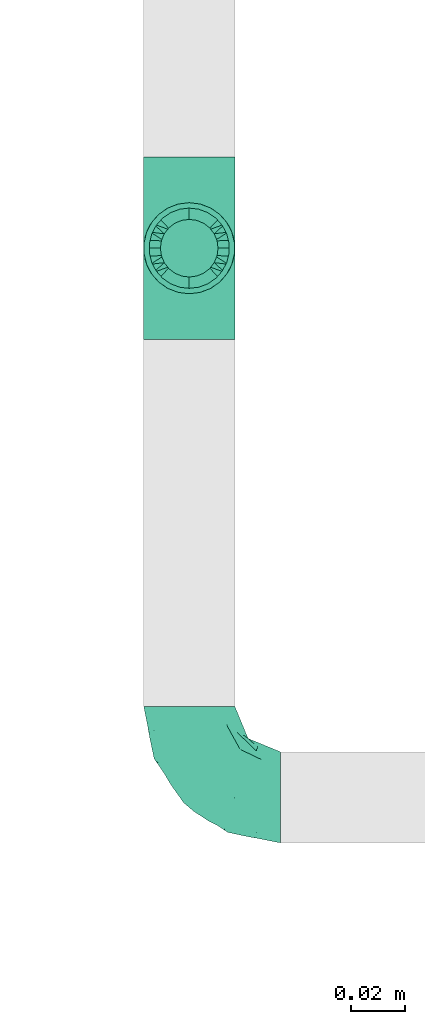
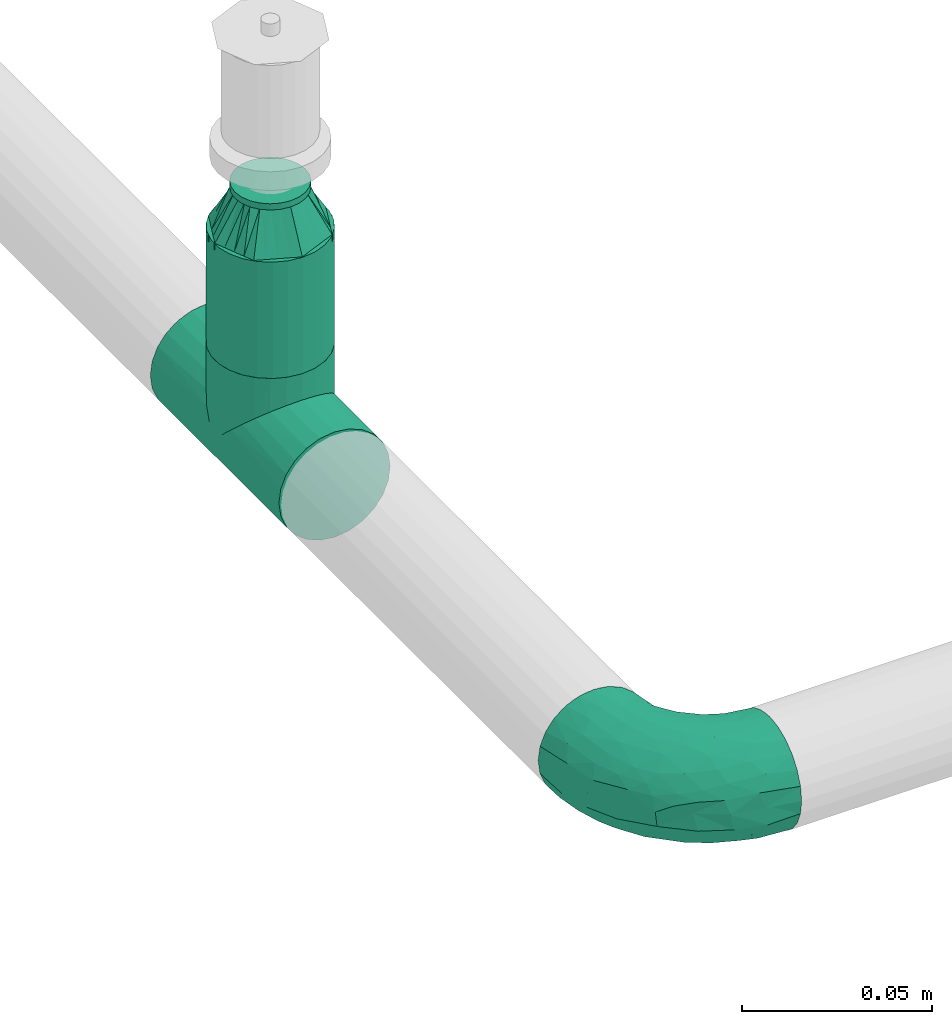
# One storey, part 6 of 31: 3 flow fittings, 1 flow segment.
"""IFC2X3 building model written with IfcOpenShell, lengths in millimetres."""

from ifc_helpers import new_model, entity, si_unit, converted_unit, derived_unit, direction, frame, origin_with_axes, origin_2d_with_axis, place, context, subcontext, project, spatial, hollow_circle, extrude, open_shell, surface_model, source, transform, mapped, type_object, element, save


model = new_model("IFC2X3")

# Units and contexts
model_context = context("Model", 3, precision=0.01, world=frame((0.0, 4.29681676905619e-09, 0.0)), true_north=direction((4.01073788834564e-13, 1.0)))
plan_context = context("Plan", 3, precision=0.01, world=frame((0.0, 4.29681676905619e-09, 0.0)), true_north=direction((4.01073788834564e-13, 1.0)))
body_context = subcontext(model_context, "Body", "Model", "MODEL_VIEW")
ifc_project = project(units=[converted_unit("PLANEANGLEUNIT", "DEGREE", entity("IfcPositiveLengthMeasure", 0.0174532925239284), si_unit("PLANEANGLEUNIT", "RADIAN"), dimensions=[0, 0, 0, 0, 0, 0, 0]), si_unit("AREAUNIT", "SQUARE_METRE"), si_unit("LENGTHUNIT", "METRE", prefix="MILLI"), si_unit("MASSUNIT", "GRAM", prefix="KILO"), si_unit("POWERUNIT", "WATT"), si_unit("PRESSUREUNIT", "PASCAL", prefix="KILO"), si_unit("FORCEUNIT", "NEWTON", prefix="KILO"), si_unit("ELECTRICVOLTAGEUNIT", "VOLT"), si_unit("ELECTRICCURRENTUNIT", "AMPERE"), si_unit("THERMODYNAMICTEMPERATUREUNIT", "DEGREE_CELSIUS"), si_unit("TIMEUNIT", "SECOND"), si_unit("VOLUMEUNIT", "CUBIC_METRE"), derived_unit("LINEARVELOCITYUNIT", [(si_unit("LENGTHUNIT", "METRE"), 1), (si_unit("TIMEUNIT", "SECOND"), -1)]), derived_unit("VOLUMETRICFLOWRATEUNIT", [(si_unit("VOLUMEUNIT", "CUBIC_METRE"), 1), (si_unit("TIMEUNIT", "SECOND"), -1)]), derived_unit("THERMALTRANSMITTANCEUNIT", [(si_unit("POWERUNIT", "WATT"), 1), (si_unit("THERMODYNAMICTEMPERATUREUNIT", "KELVIN"), -1), (si_unit("AREAUNIT", "SQUARE_METRE"), -1)]), derived_unit("SOUNDPRESSUREUNIT", [(si_unit("PRESSUREUNIT", "PASCAL"), 1)])], contexts=[model_context, plan_context])

# Site, building, storey
site_placement = place(None, frame((0.0, -4.29681676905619e-09, 0.0), z_axis=(0.0, 0.0, 1.0), x_axis=(1.0, 0.0, 0.0)))
site = spatial("IfcSite", under=ifc_project, at=site_placement, CompositionType="ELEMENT")
building_placement = place(site_placement, frame((0.0, 4.29681676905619e-09, 0.0), z_axis=(0.0, 0.0, 1.0), x_axis=(1.0, 0.0, 0.0)))
building = spatial("IfcBuilding", under=site, at=building_placement, Name="mc-building", CompositionType="ELEMENT")
storey_placement = place(building_placement, frame((0.0, 0.0, 200300.0), z_axis=(0.0, 0.0, 1.0), x_axis=(1.0, 0.0, 0.0)))
storey = spatial("IfcBuildingStorey", under=building, at=storey_placement, Name="Nivå C", CompositionType="ELEMENT", Elevation=200300.0)

# Flow fittings
pipe_fitting_type_1 = type_object("IfcPipeFittingType", Name="magi_pipe_fe_tee_centric_90_NOR", PredefinedType="JUNCTION")
shared_shape_1 = source(origin_with_axes(), body_context, "Body", "SurfaceModel", [
    surface_model("IfcShellBasedSurfaceModel", [(-33.8, 4.37404, -16.32415), (-33.8, 0.0, -16.9), (-33.8, 16.32415, -4.37404), (-33.8, 8.45, -14.63583), (-33.8, 11.9501, -11.9501), (-33.8, 14.63583, -8.45), (-33.8, -16.9, 0.0), (-33.8, -11.9501, -11.9501), (-33.8, -14.63583, -8.45), (-33.8, -8.45, -14.63583), (-33.8, -4.37404, -16.32415), (-33.8, -16.32415, -4.37404), (-33.8, 14.63583, 8.45), (-33.8, 16.32415, 4.37404), (-33.8, -8.45, 14.63583), (-33.8, 8.45, 14.63583), (-33.8, 11.9501, 11.9501), (-33.8, 4.37404, 16.32415), (-33.8, 0.0, 16.9), (-33.8, -11.9501, 11.9501), (-33.8, -14.63583, 8.45), (-33.8, -16.32415, 4.37404), (-33.8, -4.37404, 16.32415), (-33.8, 16.9, 0.0), (33.8, 4.37404, -16.32415), (33.8, -16.9, 0.0), (33.8, 0.0, -16.9), (33.8, 14.63583, -8.45), (33.8, 8.45, -14.63583), (33.8, 16.32415, -4.37404), (33.8, 11.9501, -11.9501), (33.8, -16.32415, 4.37404), (33.8, -8.45, -14.63583), (33.8, -4.37404, -16.32415), (33.8, -11.9501, -11.9501), (33.8, -14.63583, -8.45), (33.8, -16.32415, -4.37404), (33.8, 16.32415, 4.37404), (33.8, 8.45, 14.63583), (33.8, 14.63583, 8.45), (33.8, 11.9501, 11.9501), (33.8, -8.45, 14.63583), (33.8, 4.37404, 16.32415), (33.8, -14.63583, 8.45), (33.8, -11.9501, 11.9501), (33.8, 0.0, 16.9), (33.8, -4.37404, 16.32415), (33.8, 16.9, 0.0), (16.28698, -16.28698, 4.51047), (16.9, -16.9, 0.0), (14.62704, -14.62704, 8.4652), (9.47213, -9.47213, 13.99602), (12.26343, -12.26343, 11.62834), (-16.9, -16.9, 0.0), (-16.28698, -16.28698, 4.51047), (-14.62704, -14.62704, 8.4652), (-12.26343, -12.26343, 11.62834), (-9.47213, -9.47213, 13.99602), (-6.42894, -6.42894, 15.62942), (6.42894, -6.42894, 15.62942), (3.24522, -3.24522, 16.58549), (0.0, 0.0, 16.9), (-3.24522, -3.24522, 16.58549), (3.24522, -3.24522, -16.58549), (0.0, 0.0, -16.9), (-3.24522, -3.24522, -16.58549), (-6.42894, -6.42894, -15.62942), (6.42894, -6.42894, -15.62942), (9.47213, -9.47213, -13.99602), (12.26343, -12.26343, -11.62834), (14.62704, -14.62704, -8.4652), (16.28698, -16.28698, -4.51047), (-9.47213, -9.47213, -13.99602), (-12.26343, -12.26343, -11.62834), (-16.28698, -16.28698, -4.51047), (-14.62704, -14.62704, -8.4652), (4.37404, -25.35, -16.32415), (-16.9, -25.35, 0.0), (0.0, -25.35, -16.9), (14.63583, -25.35, -8.45), (8.45, -25.35, -14.63583), (16.32415, -25.35, -4.37404), (11.9501, -25.35, -11.9501), (-11.9501, -25.35, -11.9501), (-8.45, -25.35, -14.63583), (-4.37404, -25.35, -16.32415), (-14.63583, -25.35, -8.45), (-16.32415, -25.35, -4.37404), (16.9, -25.35, 0.0), (8.45, -25.35, 14.63583), (16.32415, -25.35, 4.37404), (14.63583, -25.35, 8.45), (-8.45, -25.35, 14.63583), (11.9501, -25.35, 11.9501), (4.37404, -25.35, 16.32415), (-16.32415, -25.35, 4.37404), (-11.9501, -25.35, 11.9501), (-14.63583, -25.35, 8.45), (0.0, -25.35, 16.9), (-4.37404, -25.35, 16.32415)], [open_shell([[[0, 1, 2]], [[3, 0, 4]], [[0, 2, 5]], [[4, 0, 5]], [[6, 2, 1]], [[7, 8, 9]], [[1, 10, 9]], [[11, 6, 8]], [[1, 9, 8]], [[1, 8, 6]], [[6, 12, 2]], [[12, 13, 2]], [[14, 12, 6]], [[12, 14, 15]], [[16, 12, 15]], [[17, 15, 18]], [[19, 14, 20]], [[21, 20, 14]], [[22, 18, 14]], [[14, 6, 21]], [[14, 18, 15]], [[23, 2, 13]], [[24, 25, 26]], [[27, 24, 28]], [[27, 29, 24]], [[27, 28, 30]], [[31, 25, 24]], [[26, 32, 33]], [[26, 34, 32]], [[35, 25, 36]], [[35, 34, 26]], [[25, 35, 26]], [[24, 29, 31]], [[29, 37, 38]], [[38, 37, 39]], [[38, 31, 29]], [[38, 39, 40]], [[41, 38, 42]], [[43, 41, 44]], [[41, 43, 31]], [[41, 45, 46]], [[41, 31, 38]], [[42, 45, 41]], [[29, 47, 37]], [[31, 43, 48]], [[25, 31, 49]], [[49, 31, 48]], [[43, 50, 48]], [[44, 41, 51]], [[50, 43, 52]], [[51, 52, 44]], [[52, 43, 44]], [[53, 54, 21]], [[53, 21, 6]], [[21, 54, 20]], [[54, 55, 20]], [[56, 57, 19]], [[19, 20, 56]], [[19, 57, 14]], [[56, 20, 55]], [[14, 57, 58]], [[51, 41, 59]], [[60, 45, 61]], [[59, 46, 60]], [[46, 59, 41]], [[60, 46, 45]], [[61, 45, 42]], [[39, 37, 13]], [[16, 38, 40]], [[12, 40, 39]], [[42, 38, 15]], [[23, 37, 47]], [[62, 61, 18]], [[62, 22, 58]], [[22, 62, 18]], [[58, 22, 14]], [[61, 17, 18]], [[42, 17, 61]], [[15, 17, 42]], [[15, 38, 16]], [[12, 16, 40]], [[13, 12, 39]], [[37, 23, 13]], [[5, 27, 30]], [[23, 47, 29]], [[30, 28, 3]], [[27, 2, 29]], [[26, 33, 63]], [[26, 64, 24]], [[64, 26, 63]], [[28, 24, 0]], [[64, 0, 24]], [[4, 30, 3]], [[2, 27, 5]], [[5, 30, 4]], [[2, 23, 29]], [[65, 66, 10]], [[1, 0, 64]], [[1, 65, 10]], [[66, 9, 10]], [[0, 3, 28]], [[1, 64, 65]], [[63, 33, 67]], [[32, 34, 68]], [[69, 68, 34]], [[35, 70, 69]], [[69, 34, 35]], [[32, 68, 67]], [[36, 25, 49]], [[36, 71, 35]], [[71, 36, 49]], [[35, 71, 70]], [[72, 9, 66]], [[72, 7, 9]], [[7, 72, 73]], [[7, 73, 8]], [[74, 53, 11]], [[75, 74, 8]], [[74, 11, 8]], [[11, 53, 6]], [[75, 8, 73]], [[32, 67, 33]], [[76, 77, 78]], [[79, 76, 80]], [[79, 81, 76]], [[79, 80, 82]], [[77, 76, 81]], [[78, 83, 84]], [[84, 85, 78]], [[86, 77, 87]], [[83, 78, 86]], [[77, 86, 78]], [[81, 88, 77]], [[89, 88, 90]], [[89, 90, 91]], [[92, 77, 89]], [[89, 91, 93]], [[92, 89, 94]], [[95, 96, 97]], [[96, 95, 92]], [[92, 98, 99]], [[95, 77, 92]], [[94, 98, 92]], [[89, 77, 88]], [[77, 95, 53]], [[54, 53, 95]], [[97, 96, 56]], [[96, 92, 57]], [[95, 97, 54]], [[58, 92, 99]], [[55, 54, 97]], [[56, 55, 97]], [[58, 57, 92]], [[98, 61, 62]], [[58, 99, 62]], [[56, 96, 57]], [[62, 99, 98]], [[94, 60, 98]], [[89, 59, 94]], [[91, 90, 48]], [[52, 93, 91]], [[93, 51, 89]], [[49, 90, 88]], [[59, 60, 94]], [[51, 59, 89]], [[49, 48, 90]], [[50, 52, 91]], [[48, 50, 91]], [[51, 93, 52]], [[98, 60, 61]], [[88, 81, 49]], [[71, 49, 81]], [[79, 82, 69]], [[82, 80, 68]], [[81, 79, 71]], [[67, 80, 76]], [[70, 71, 79]], [[69, 70, 79]], [[67, 68, 80]], [[78, 64, 63]], [[67, 76, 63]], [[69, 82, 68]], [[63, 76, 78]], [[85, 65, 78]], [[84, 66, 85]], [[86, 87, 74]], [[86, 73, 83]], [[72, 84, 83]], [[53, 87, 77]], [[66, 65, 85]], [[72, 66, 84]], [[53, 74, 87]], [[75, 73, 86]], [[74, 75, 86]], [[72, 83, 73]], [[78, 65, 64]]])]),
])
flow_fitting_1_placement = place(storey_placement, frame((604902.03234, 400928.19532, 2900.0), z_axis=(-1.0, 0.0, 0.0), x_axis=(0.0, 1.0, 0.0)))
element("IfcFlowFitting", 1, at=flow_fitting_1_placement, inside=storey, type_object=pipe_fitting_type_1, Name="magi_pipe_fe_tee_centric_90_NOR", context=body_context, shape_type="MappedRepresentation", body=[
    mapped(shared_shape_1, transform((0.0, 0.0, 0.0), scale=1.0)),
])
pipe_fitting_type_2 = type_object("IfcPipeFittingType", Name="magi_pipe_fe_reducer_centric_short_NOR", PredefinedType="TRANSITION")
shared_shape_2 = source(origin_with_axes(), body_context, "Body", "SurfaceModel", [
    surface_model("IfcShellBasedSurfaceModel", [(14.4, 5.35, -9.26647), (14.4, 0.0, -10.7), (14.4, 2.76936, -10.33541), (14.4, 10.33541, -2.76936), (14.4, 7.56604, -7.56604), (14.4, -10.33541, -2.76936), (14.4, 9.26647, -5.35), (14.4, 0.0, 10.7), (14.4, -5.35, -9.26647), (14.4, -2.76936, -10.33541), (14.4, -7.56604, -7.56604), (14.4, -9.26647, -5.35), (14.4, 10.7, 0.0), (14.4, 10.33541, 2.76936), (14.4, 9.26647, 5.35), (14.4, 7.56604, 7.56604), (14.4, 2.76936, 10.33541), (14.4, 5.35, 9.26647), (14.4, -10.33541, 2.76936), (14.4, -7.56604, 7.56604), (14.4, -9.26647, 5.35), (14.4, -10.7, 0.0), (14.4, -2.76936, 10.33541), (14.4, -5.35, 9.26647), (12.4, 2.76936, 10.33541), (12.4, -10.33541, -2.76936), (12.4, 0.0, 10.7), (12.4, 5.35, 9.26647), (12.4, 7.56604, 7.56604), (12.4, 9.26647, 5.35), (12.4, 10.33541, 2.76936), (12.4, -10.33541, 2.76936), (12.4, -2.76936, 10.33541), (12.4, -7.56604, 7.56604), (12.4, -5.35, 9.26647), (12.4, -9.26647, 5.35), (12.4, -10.7, 0.0), (12.4, 10.33541, -2.76936), (12.4, 5.35, -9.26647), (12.4, 9.26647, -5.35), (12.4, 7.56604, -7.56604), (12.4, 2.76936, -10.33541), (12.4, -9.26647, -5.35), (12.4, -5.35, -9.26647), (12.4, -7.56604, -7.56604), (12.4, 0.0, -10.7), (12.4, -2.76936, -10.33541), (12.4, 10.7, 0.0), (-2.0, 11.9501, 11.9501), (-2.0, 0.0, 16.9), (-2.0, 4.37404, 16.32415), (-2.0, 8.45, 14.63583), (-2.0, 14.63583, 8.45), (-2.0, 16.32415, 4.37404), (-2.0, -16.32415, 4.37404), (-2.0, -8.45, 14.63583), (-2.0, -14.63583, 8.45), (-2.0, -11.9501, 11.9501), (-2.0, -4.37404, 16.32415), (-2.0, -16.32415, -4.37404), (-2.0, -16.9, 0.0), (-2.0, -8.45, -14.63583), (-2.0, 16.32415, -4.37404), (-2.0, 11.9501, -11.9501), (-2.0, 14.63583, -8.45), (-2.0, 8.45, -14.63583), (-2.0, 4.37404, -16.32415), (-2.0, 0.0, -16.9), (-2.0, -11.9501, -11.9501), (-2.0, -14.63583, -8.45), (-2.0, -4.37404, -16.32415), (-2.0, 16.9, 0.0), (0.0, 4.37404, -16.32415), (0.0, 8.45, -14.63583), (0.0, 11.9501, -11.9501), (0.0, 0.0, -16.9), (0.0, 16.32415, -4.37404), (0.0, 16.32415, 4.37404), (0.0, 14.63583, -8.45), (0.0, -8.45, -14.63583), (0.0, -4.37404, -16.32415), (0.0, -11.9501, -11.9501), (0.0, -16.32415, -4.37404), (0.0, -14.63583, -8.45), (0.0, -16.32415, 4.37404), (0.0, 16.9, 0.0), (0.0, 14.63583, 8.45), (0.0, 11.9501, 11.9501), (0.0, 4.37404, 16.32415), (0.0, 8.45, 14.63583), (0.0, 0.0, 16.9), (0.0, -14.63583, 8.45), (0.0, -16.9, 0.0), (0.0, -8.45, 14.63583), (0.0, -11.9501, 11.9501), (0.0, -4.37404, 16.32415), (12.4, 9.3625, -2.31662), (0.0, 14.42505, -5.97505), (0.0, 15.66253, -2.98753), (12.4, -6.6875, -6.94985), (0.0, -13.18758, -8.96258), (0.0, 2.98753, -15.66253), (12.4, 0.0, -9.26647), (12.4, 6.6875, -6.94985), (0.0, 8.96258, -13.18758), (12.4, -9.3625, -2.31662), (0.0, -15.66253, -2.98753), (0.0, -14.42505, -5.97505), (0.0, 5.97505, -14.42505), (0.0, -2.98753, -15.66253), (0.0, -8.96258, -13.18758), (0.0, 13.18758, -8.96258), (12.4, 8.025, -4.63324), (12.4, -2.675, -9.26647), (12.4, 2.675, -9.26647), (0.0, -5.97505, -14.42505), (12.4, -8.025, -4.63324), (12.4, -9.3625, 2.31662), (0.0, -14.42505, 5.97505), (0.0, -15.66253, 2.98753), (12.4, 6.6875, 6.94985), (0.0, 13.18758, 8.96258), (0.0, -2.98753, 15.66253), (12.4, 0.0, 9.26647), (12.4, -6.6875, 6.94985), (0.0, -8.96258, 13.18758), (12.4, 9.3625, 2.31662), (0.0, 15.66253, 2.98753), (0.0, 14.42505, 5.97505), (0.0, -5.97505, 14.42505), (0.0, 2.98753, 15.66253), (0.0, 8.96258, 13.18758), (0.0, -13.18758, 8.96258), (12.4, -8.025, 4.63324), (12.4, 2.675, 9.26647), (12.4, -2.675, 9.26647), (0.0, 5.97505, 14.42505), (12.4, 8.025, 4.63324)], [open_shell([[[0, 1, 2]], [[3, 0, 4]], [[5, 0, 3]], [[3, 4, 6]], [[7, 5, 3]], [[1, 8, 9]], [[1, 0, 8]], [[10, 5, 11]], [[5, 10, 8]], [[0, 5, 8]], [[3, 12, 13]], [[13, 14, 15]], [[13, 15, 16]], [[7, 3, 16]], [[16, 15, 17]], [[7, 18, 5]], [[18, 19, 20]], [[21, 5, 18]], [[19, 22, 23]], [[22, 19, 18]], [[7, 22, 18]], [[13, 16, 3]], [[24, 25, 26]], [[27, 25, 24]], [[28, 29, 30]], [[28, 25, 27]], [[31, 26, 25]], [[32, 33, 34]], [[33, 32, 31]], [[33, 31, 35]], [[32, 26, 31]], [[31, 25, 36]], [[30, 37, 28]], [[25, 28, 37]], [[38, 37, 39]], [[37, 38, 25]], [[38, 39, 40]], [[41, 25, 38]], [[42, 43, 44]], [[43, 42, 25]], [[43, 45, 46]], [[43, 25, 41]], [[41, 45, 43]], [[37, 30, 47]], [[25, 5, 36]], [[42, 11, 25]], [[8, 44, 43]], [[42, 44, 10]], [[9, 43, 46]], [[25, 11, 5]], [[5, 21, 36]], [[9, 8, 43]], [[10, 44, 8]], [[10, 11, 42]], [[1, 9, 46]], [[46, 45, 1]], [[41, 2, 45]], [[38, 0, 41]], [[6, 40, 39]], [[38, 40, 4]], [[3, 39, 37]], [[38, 4, 0]], [[0, 2, 41]], [[12, 3, 37]], [[6, 39, 3]], [[6, 4, 40]], [[47, 12, 37]], [[45, 2, 1]], [[30, 13, 47]], [[29, 14, 30]], [[17, 28, 27]], [[29, 28, 15]], [[16, 27, 24]], [[30, 14, 13]], [[13, 12, 47]], [[16, 17, 27]], [[15, 28, 17]], [[15, 14, 29]], [[7, 16, 24]], [[24, 26, 7]], [[32, 22, 26]], [[34, 23, 32]], [[20, 33, 35]], [[34, 33, 19]], [[18, 35, 31]], [[34, 19, 23]], [[23, 22, 32]], [[21, 18, 31]], [[20, 35, 18]], [[20, 19, 33]], [[36, 21, 31]], [[26, 22, 7]], [[48, 49, 50]], [[48, 50, 51]], [[48, 52, 53]], [[48, 53, 49]], [[49, 53, 54]], [[55, 56, 57]], [[55, 58, 49]], [[56, 55, 49]], [[49, 54, 56]], [[54, 59, 60]], [[54, 53, 61]], [[53, 62, 63]], [[63, 62, 64]], [[63, 65, 66]], [[61, 53, 63]], [[67, 63, 66]], [[59, 68, 69]], [[68, 59, 61]], [[61, 67, 70]], [[59, 54, 61]], [[63, 67, 61]], [[53, 71, 62]], [[72, 73, 74]], [[75, 72, 74]], [[74, 76, 77]], [[76, 74, 78]], [[74, 77, 79]], [[75, 79, 80]], [[75, 74, 79]], [[81, 82, 83]], [[82, 81, 79]], [[79, 84, 82]], [[77, 76, 85]], [[77, 86, 87]], [[77, 87, 88]], [[88, 84, 79]], [[88, 87, 89]], [[84, 88, 90]], [[90, 91, 84]], [[92, 82, 84]], [[91, 93, 94]], [[91, 90, 93]], [[93, 90, 95]], [[79, 77, 88]], [[59, 82, 60]], [[69, 83, 59]], [[79, 68, 61]], [[69, 68, 81]], [[80, 61, 70]], [[59, 83, 82]], [[82, 92, 60]], [[80, 79, 61]], [[81, 68, 79]], [[81, 83, 69]], [[75, 80, 70]], [[70, 67, 75]], [[66, 72, 67]], [[65, 73, 66]], [[78, 63, 64]], [[65, 63, 74]], [[76, 64, 62]], [[65, 74, 73]], [[73, 72, 66]], [[85, 76, 62]], [[78, 64, 76]], [[78, 74, 63]], [[71, 85, 62]], [[67, 72, 75]], [[53, 77, 71]], [[52, 86, 53]], [[89, 48, 51]], [[52, 48, 87]], [[88, 51, 50]], [[53, 86, 77]], [[77, 85, 71]], [[88, 89, 51]], [[87, 48, 89]], [[87, 86, 52]], [[90, 88, 50]], [[50, 49, 90]], [[58, 95, 49]], [[55, 93, 58]], [[91, 57, 56]], [[55, 57, 94]], [[84, 56, 54]], [[55, 94, 93]], [[93, 95, 58]], [[92, 84, 54]], [[91, 56, 84]], [[91, 94, 57]], [[60, 92, 54]], [[49, 95, 90]], [[27, 34, 47]], [[47, 34, 43]], [[43, 38, 47]], [[43, 34, 36]], [[90, 87, 94]], [[92, 94, 87]], [[87, 74, 92]], [[75, 92, 74]], [[81, 92, 75]], [[74, 87, 85]], [[96, 97, 98]], [[81, 99, 100]], [[101, 102, 75]], [[98, 85, 47]], [[74, 103, 104]], [[104, 103, 38]], [[105, 106, 107]], [[38, 108, 104]], [[102, 109, 75]], [[110, 99, 81]], [[47, 96, 98]], [[103, 111, 112]], [[109, 102, 113]], [[36, 92, 106]], [[102, 101, 114]], [[110, 115, 43]], [[96, 112, 97]], [[107, 116, 105]], [[36, 106, 105]], [[113, 115, 109]], [[43, 115, 113]], [[116, 107, 100]], [[108, 38, 114]], [[111, 103, 74]], [[111, 97, 112]], [[99, 110, 43]], [[116, 100, 99]], [[101, 108, 114]], [[117, 118, 119]], [[87, 120, 121]], [[122, 123, 90]], [[119, 92, 36]], [[94, 124, 125]], [[125, 124, 34]], [[126, 127, 128]], [[34, 129, 125]], [[123, 130, 90]], [[131, 120, 87]], [[36, 117, 119]], [[124, 132, 133]], [[130, 123, 134]], [[47, 85, 127]], [[123, 122, 135]], [[131, 136, 27]], [[117, 133, 118]], [[128, 137, 126]], [[47, 127, 126]], [[134, 136, 130]], [[27, 136, 134]], [[137, 128, 121]], [[129, 34, 135]], [[132, 124, 94]], [[132, 118, 133]], [[120, 131, 27]], [[137, 121, 120]], [[122, 129, 135]]])]),
])
flow_fitting_2_placement = place(storey_placement, frame((604902.03234, 400928.19532, 2962.64799999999), z_axis=(-1.0, 0.0, 0.0), x_axis=(0.0, 0.0, 1.0)))
element("IfcFlowFitting", 2, at=flow_fitting_2_placement, inside=storey, type_object=pipe_fitting_type_2, Name="magi_pipe_fe_reducer_centric_short_NOR", context=body_context, shape_type="MappedRepresentation", body=[
    mapped(shared_shape_2, transform((0.0, 0.0, 0.0), scale=1.0)),
])
pipe_fitting_type_3 = type_object("IfcPipeFittingType", Name="magi_pipe_fe_elbow_short_001", PredefinedType="BEND")
shared_shape_3 = source(origin_with_axes(), body_context, "Body", "SurfaceModel", [
    surface_model("IfcShellBasedSurfaceModel", [(-33.8, 8.45, -14.63583), (-33.8, 4.37404, -16.32415), (-33.8, 11.9501, -11.9501), (-33.8, -11.9501, -11.9501), (-33.8, -14.63583, -8.45), (-33.8, -8.45, -14.63583), (-33.8, 0.0, -16.9), (-33.8, -4.37404, -16.32415), (-33.8, -4.37404, 16.32415), (-33.8, 0.0, 16.9), (-33.8, -8.45, 14.63583), (-33.8, 16.32415, -4.37404), (-33.8, 14.63583, -8.45), (-33.8, -16.32415, -4.37404), (-33.8, -16.9, 0.0), (-33.8, -16.32415, 4.37404), (-33.8, 11.9501, 11.9501), (-33.8, 14.63583, 8.45), (-33.8, 16.32415, 4.37404), (-33.8, 4.37404, 16.32415), (-33.8, 8.45, 14.63583), (-33.8, -14.63583, 8.45), (-33.8, -11.9501, 11.9501), (-33.8, 16.9, 0.0), (-11.9501, 33.8, -11.9501), (0.0, 33.8, -16.9), (-4.37404, 33.8, -16.32415), (-8.45, 33.8, -14.63583), (-14.63583, 33.8, -8.45), (-16.32415, 33.8, -4.37404), (14.63583, 33.8, -8.45), (8.45, 33.8, 14.63583), (16.32415, 33.8, -4.37404), (8.45, 33.8, -14.63583), (11.9501, 33.8, -11.9501), (4.37404, 33.8, -16.32415), (16.32415, 33.8, 4.37404), (16.9, 33.8, 0.0), (-11.9501, 33.8, 11.9501), (-16.32415, 33.8, 4.37404), (-14.63583, 33.8, 8.45), (-8.45, 33.8, 14.63583), (-4.37404, 33.8, 16.32415), (11.9501, 33.8, 11.9501), (14.63583, 33.8, 8.45), (0.0, 33.8, 16.9), (4.37404, 33.8, 16.32415), (-16.9, 33.8, 0.0), (-24.79389, -13.12945, 9.48721), (-22.19287, -9.75018, 12.59315), (-24.09897, -14.97035, 0.0), (-14.93934, -10.76256, 8.5297), (-22.46095, -14.75051, 5.27077), (14.75051, 22.46094, 5.27077), (11.9251, 13.23888, 4.33236), (13.04069, 14.39795, 0.0), (7.71387, 13.68847, 11.55891), (9.75018, 22.19287, 12.59315), (4.10169, 13.0571, 14.04018), (-24.84007, -6.39063, 15.2048), (-25.81779, -2.23879, 16.61097), (-23.66549, 2.59054, 16.87119), (-26.50418, 14.06512, 11.08152), (-24.21253, 17.66365, 7.72657), (-29.58514, 15.86957, 7.00283), (-6.17382, -7.5455, 0.0), (-13.23888, -11.9251, 4.33236), (-14.39795, -13.04069, 0.0), (-17.81434, 18.87373, 11.97104), (-6.30846, 29.15138, 15.82987), (-2.31622, 25.28002, 16.85849), (-29.23923, 10.23435, 13.77053), (-1.45439, -2.85688, 7.61475), (-0.28326, 0.34872, 10.09509), (-5.74484, -4.04709, 10.4122), (-4.41137, 11.31918, 16.59407), (-8.39727, 3.10034, 15.7812), (-1.72649, 9.1306, 15.53089), (-17.39909, 24.75344, 7.64977), (-26.19233, 20.0512, 0.0), (-28.14518, 17.29657, 4.25857), (-26.05147, 6.6281, 15.96447), (-5.87354, 16.61944, 16.86968), (-12.51807, 12.51807, 16.48937), (-10.06312, 7.38516, 16.81295), (-3.01882, 3.01882, 13.81718), (-13.0571, -4.10169, 14.04018), (-16.82553, -0.15166, 16.38038), (10.76256, 14.93934, 8.5297), (13.12945, 24.79389, 9.48721), (6.39063, 24.84007, 15.2048), (2.23879, 25.81779, 16.61097), (-13.68847, -7.71387, 11.55891), (14.97035, 24.09897, 0.0), (-7.30894, 22.89991, 16.09489), (-10.67958, 26.17414, 14.008), (-12.78295, 18.26924, 15.06066), (-13.88562, 22.45231, 12.93244), (-18.04944, 15.16501, 14.04434), (-23.11658, 20.08178, 4.02986), (-21.84989, 21.84989, 0.0), (-18.55817, 25.48277, 3.93065), (-13.95142, 26.94732, 11.03289), (-18.57098, 7.23906, 16.59756), (-16.58335, 4.14122, 16.89279), (-17.96666, 11.46709, 15.63151), (-9.84453, 17.54304, 16.18938), (0.15166, 16.82553, 16.38038), (-23.27207, 11.47201, 14.23154), (3.84842, 5.86994, 10.70473), (-8.0212, -7.54413, 7.93275), (1.00345, -2.19508, 4.57414), (5.13203, 3.01004, 5.90201), (5.24161, 1.7543, 2.53265), (8.70457, 7.04947, 3.99182), (-20.0512, 26.19233, 0.0), (8.4852, 8.76699, 7.09296), (-4.55488, -6.72064, 4.90681), (2.05031, -2.05031, 0.0), (7.5455, 6.17382, 0.0), (-26.75399, 2.1369, -16.845), (-14.61995, 24.73803, -11.27736), (-28.45274, -13.45335, -9.81895), (-26.00469, 6.63555, -15.96645), (-23.06726, 20.04573, -4.26202), (-13.80647, -4.26506, -14.17873), (-14.67501, -0.21081, -16.07388), (-6.7902, -0.2828, -13.8478), (-24.53586, 11.08096, -14.13417), (-26.72048, 14.00837, -11.05776), (10.0967, 24.44989, -12.75976), (5.83237, 21.40218, -15.03047), (6.66249, 28.54238, -15.38093), (-20.38182, 15.48705, -12.74596), (12.53268, 21.23441, -9.15363), (12.54494, 15.67504, -5.54878), (9.7522, 12.89279, -8.66343), (-15.65186, 19.64213, -13.01327), (-12.03528, 20.66498, -14.67665), (-15.61907, 15.61906, -14.83879), (-25.56551, -15.26206, 0.0), (-24.65452, -15.12934, -5.50955), (13.45335, 28.45274, -9.81895), (15.12934, 24.65452, -5.50955), (-7.35442, -8.31014, -5.65563), (-15.67504, -12.54494, -5.54878), (-24.44989, -10.0967, -12.75976), (0.16522, 0.41303, -9.71728), (-5.70658, -5.33066, -8.89288), (-5.13869, -2.37198, -11.53565), (-21.23441, -12.53268, -9.15363), (0.71146, 7.93863, -14.09382), (0.21081, 14.67501, -16.07388), (3.49291, 14.42772, -14.76381), (-24.89911, -2.13088, -16.591), (-28.54238, -6.66249, -15.38093), (-18.44386, -7.71663, -13.26957), (2.13088, 24.89911, -16.591), (-28.64342, 17.44413, -2.89318), (1.70017, -1.28722, -5.09504), (-16.57067, 26.81947, -7.36596), (-17.69055, 27.4263, -3.76405), (-12.89279, -9.7522, -8.66343), (-5.96611, 5.96611, -15.95814), (-20.53709, 20.09345, -8.28985), (-2.1369, 26.75399, -16.845), (-6.89872, 24.58781, -16.02578), (-10.60739, 26.53157, -13.98044), (-21.40218, -5.83237, -15.03047), (2.93192, 5.89627, -11.55917), (6.89393, 12.61842, -11.82233), (5.58056, 5.95325, -8.79455), (-3.99512, 18.61798, -16.89635), (8.31014, 7.35442, -5.65563), (-9.1383, 9.86148, -16.89041), (-9.99983, 16.02119, -16.39699), (-16.68576, 9.78031, -16.34199), (-27.01915, 16.61158, -7.12979), (15.26206, 25.56551, 0.0), (-18.61798, 3.99512, -16.89635), (-19.37495, 27.82495, 0.0), (-12.61842, -6.89393, -11.82233), (-18.84705, 19.14018, -10.96545)], [open_shell([[[0, 1, 2]], [[3, 4, 5]], [[6, 7, 5]], [[8, 9, 10]], [[1, 6, 2]], [[11, 12, 2]], [[4, 2, 6]], [[2, 13, 10]], [[5, 4, 6]], [[2, 4, 13]], [[14, 15, 13]], [[11, 2, 16]], [[11, 17, 18]], [[11, 16, 17]], [[19, 20, 16]], [[16, 2, 10]], [[19, 16, 10]], [[21, 22, 15]], [[22, 13, 15]], [[22, 10, 13]], [[10, 9, 19]], [[11, 18, 23]], [[24, 25, 26]], [[24, 26, 27]], [[24, 28, 29]], [[25, 24, 30]], [[31, 32, 24]], [[33, 30, 34]], [[33, 35, 25]], [[25, 30, 33]], [[32, 30, 24]], [[32, 36, 37]], [[38, 24, 29]], [[39, 40, 29]], [[40, 38, 29]], [[38, 41, 42]], [[38, 31, 24]], [[31, 38, 42]], [[36, 43, 44]], [[36, 32, 43]], [[31, 45, 46]], [[32, 31, 43]], [[42, 45, 31]], [[39, 29, 47]], [[22, 48, 49]], [[15, 14, 50]], [[51, 48, 52]], [[53, 54, 55]], [[48, 22, 21]], [[15, 52, 21]], [[56, 57, 58]], [[49, 10, 22]], [[49, 59, 10]], [[9, 60, 61]], [[62, 63, 64]], [[65, 66, 67]], [[57, 43, 31]], [[62, 68, 63]], [[42, 69, 70]], [[20, 71, 16]], [[8, 60, 9]], [[72, 73, 74]], [[75, 76, 77]], [[16, 62, 17]], [[40, 39, 78]], [[79, 23, 80]], [[64, 18, 17]], [[9, 61, 19]], [[19, 81, 20]], [[82, 83, 84]], [[74, 85, 86]], [[59, 86, 87]], [[88, 89, 57]], [[90, 31, 46]], [[44, 53, 36]], [[46, 45, 91]], [[54, 53, 88]], [[44, 89, 53]], [[92, 86, 49]], [[89, 44, 43]], [[10, 59, 8]], [[53, 55, 93]], [[93, 36, 53]], [[66, 52, 67]], [[94, 82, 70]], [[95, 96, 94]], [[97, 98, 96]], [[79, 99, 100]], [[41, 38, 95]], [[101, 100, 99]], [[68, 78, 63]], [[42, 41, 69]], [[23, 18, 80]], [[95, 94, 69]], [[78, 101, 99]], [[38, 102, 95]], [[70, 45, 42]], [[97, 95, 102]], [[15, 50, 52]], [[90, 57, 31]], [[57, 90, 58]], [[81, 19, 61]], [[103, 104, 84]], [[105, 81, 103]], [[38, 40, 102]], [[106, 96, 83]], [[94, 106, 82]], [[91, 70, 107]], [[71, 62, 16]], [[62, 108, 98]], [[86, 59, 49]], [[67, 52, 50]], [[60, 59, 87]], [[92, 49, 51]], [[86, 85, 76]], [[91, 90, 46]], [[37, 36, 93]], [[107, 77, 58]], [[107, 58, 90]], [[58, 85, 109]], [[110, 74, 92]], [[72, 74, 110]], [[66, 51, 52]], [[72, 111, 112]], [[113, 114, 112]], [[56, 88, 57]], [[52, 48, 21]], [[49, 48, 51]], [[57, 89, 43]], [[53, 89, 88]], [[103, 81, 61]], [[71, 81, 108]], [[18, 64, 80]], [[63, 78, 99]], [[47, 115, 101]], [[101, 115, 100]], [[40, 78, 102]], [[68, 102, 78]], [[97, 96, 95]], [[105, 98, 108]], [[103, 84, 83]], [[107, 70, 82]], [[76, 84, 87]], [[82, 84, 75]], [[70, 91, 45]], [[90, 91, 107]], [[59, 60, 8]], [[61, 60, 87]], [[73, 85, 74]], [[109, 112, 116]], [[103, 61, 104]], [[105, 103, 83]], [[96, 105, 83]], [[81, 105, 108]], [[96, 98, 105]], [[62, 98, 68]], [[61, 87, 104]], [[87, 84, 104]], [[86, 76, 87]], [[77, 76, 85]], [[58, 77, 85]], [[75, 77, 107]], [[82, 75, 107]], [[76, 75, 84]], [[81, 71, 20]], [[62, 71, 108]], [[95, 69, 41]], [[70, 69, 94]], [[62, 64, 17]], [[80, 63, 99]], [[63, 80, 64]], [[80, 99, 79]], [[66, 65, 117]], [[110, 66, 117]], [[112, 114, 116]], [[118, 117, 65]], [[110, 92, 51]], [[112, 111, 113]], [[119, 55, 54]], [[74, 86, 92]], [[58, 109, 56]], [[116, 56, 109]], [[66, 110, 51]], [[72, 110, 117]], [[111, 72, 117]], [[73, 112, 109]], [[117, 118, 111]], [[113, 111, 118]], [[118, 119, 113]], [[114, 119, 54]], [[119, 114, 113]], [[116, 54, 88]], [[54, 116, 114]], [[116, 88, 56]], [[112, 73, 72]], [[85, 73, 109]], [[78, 39, 101]], [[47, 101, 39]], [[102, 68, 97]], [[97, 68, 98]], [[82, 106, 83]], [[94, 96, 106]], [[1, 120, 6]], [[28, 24, 121]], [[3, 122, 4]], [[0, 123, 1]], [[100, 124, 79]], [[125, 126, 127]], [[128, 2, 129]], [[130, 131, 132]], [[128, 129, 133]], [[134, 135, 136]], [[137, 138, 139]], [[128, 0, 2]], [[67, 140, 141]], [[134, 142, 143]], [[141, 13, 4]], [[144, 65, 145]], [[146, 3, 5]], [[147, 148, 149]], [[145, 141, 150]], [[151, 152, 153]], [[154, 7, 6]], [[5, 155, 146]], [[150, 146, 156]], [[155, 5, 7]], [[143, 135, 134]], [[35, 157, 25]], [[23, 79, 158]], [[148, 159, 144]], [[160, 161, 29]], [[145, 162, 144]], [[163, 152, 151]], [[29, 28, 160]], [[121, 164, 160]], [[33, 34, 130]], [[25, 165, 26]], [[26, 165, 166]], [[142, 34, 30]], [[24, 27, 167]], [[124, 161, 164]], [[157, 35, 132]], [[155, 154, 168]], [[123, 0, 128]], [[169, 170, 171]], [[172, 157, 152]], [[26, 166, 27]], [[132, 35, 33]], [[142, 130, 34]], [[168, 154, 126]], [[136, 135, 173]], [[133, 137, 139]], [[2, 12, 129]], [[170, 131, 130]], [[30, 32, 143]], [[172, 174, 175]], [[176, 123, 128]], [[158, 177, 11]], [[135, 55, 119]], [[167, 27, 166]], [[175, 166, 172]], [[137, 167, 138]], [[122, 141, 4]], [[140, 14, 13]], [[32, 37, 178]], [[170, 130, 134]], [[152, 157, 131]], [[165, 157, 172]], [[153, 170, 151]], [[152, 163, 174]], [[168, 125, 156]], [[122, 146, 150]], [[120, 154, 6]], [[179, 174, 126]], [[179, 126, 154]], [[126, 163, 127]], [[162, 145, 150]], [[140, 13, 141]], [[32, 178, 143]], [[55, 143, 178]], [[177, 129, 12]], [[128, 133, 139]], [[176, 128, 139]], [[120, 123, 179]], [[121, 160, 28]], [[161, 100, 180]], [[166, 175, 138]], [[121, 24, 167]], [[161, 47, 29]], [[79, 124, 158]], [[124, 164, 177]], [[161, 124, 100]], [[136, 171, 170]], [[127, 163, 151]], [[147, 171, 159]], [[148, 144, 162]], [[127, 151, 169]], [[127, 181, 125]], [[129, 177, 164]], [[12, 11, 177]], [[159, 65, 144]], [[67, 141, 145]], [[143, 55, 135]], [[135, 119, 173]], [[123, 120, 1]], [[154, 120, 179]], [[157, 165, 25]], [[166, 165, 172]], [[172, 152, 174]], [[176, 139, 175]], [[126, 174, 163]], [[176, 174, 179]], [[174, 176, 175]], [[123, 176, 179]], [[150, 181, 162]], [[127, 149, 181]], [[181, 148, 162]], [[159, 148, 147]], [[171, 136, 173]], [[170, 134, 136]], [[159, 171, 173]], [[171, 147, 169]], [[169, 147, 149]], [[151, 170, 169]], [[164, 182, 129]], [[182, 121, 137]], [[181, 149, 148]], [[169, 149, 127]], [[182, 137, 133]], [[167, 137, 121]], [[166, 138, 167]], [[175, 139, 138]], [[129, 182, 133]], [[121, 182, 164]], [[161, 160, 164]], [[47, 161, 180]], [[177, 158, 124]], [[23, 158, 11]], [[130, 132, 33]], [[157, 132, 131]], [[143, 142, 30]], [[130, 142, 134]], [[154, 155, 7]], [[146, 155, 168]], [[146, 122, 3]], [[141, 122, 150]], [[152, 131, 153]], [[159, 119, 118]], [[67, 145, 65]], [[170, 153, 131]], [[119, 159, 173]], [[159, 118, 65]], [[156, 125, 181]], [[126, 125, 168]], [[150, 156, 181]], [[168, 156, 146]]])]),
])
flow_fitting_3_placement = place(storey_placement, frame((604902.03234, 400724.39532, 2900.0), z_axis=(0.0, 0.0, 1.0), x_axis=(0.0, -1.0, 0.0)))
element("IfcFlowFitting", 3, at=flow_fitting_3_placement, inside=storey, type_object=pipe_fitting_type_3, Name="magi_pipe_fe_elbow_short_001", context=body_context, shape_type="MappedRepresentation", body=[
    mapped(shared_shape_3, transform((0.0, 0.0, 0.0), scale=1.0)),
])

# Flow segment
pipe_segment_type = type_object("IfcPipeSegmentType", Name="Stålrør normaltykke", PredefinedType="RIGIDSEGMENT")
shared_shape_4 = source(origin_with_axes(), body_context, "Body", "SweptSolid", [
    extrude(hollow_circle(Radius=16.9, WallThickness=2.0, at=origin_2d_with_axis()), frame((0.0, 0.0, 0.0), z_axis=(1.0, 0.0, 0.0), x_axis=(0.0, 1.0, 0.0)), (0.0, 0.0, 1.0), 37.3),
])
flow_segment_placement = place(storey_placement, frame((604902.03234, 400928.19532, 2925.35000000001), z_axis=(-1.0, 0.0, 0.0), x_axis=(0.0, 0.0, 1.0)))
element("IfcFlowSegment", 4, at=flow_segment_placement, inside=storey, type_object=pipe_segment_type, Name="Stålrør normaltykke", context=body_context, shape_type="MappedRepresentation", body=[
    mapped(shared_shape_4, transform((0.0, 0.0, 0.0), scale=1.0)),
])

save(model, "model.ifc")
